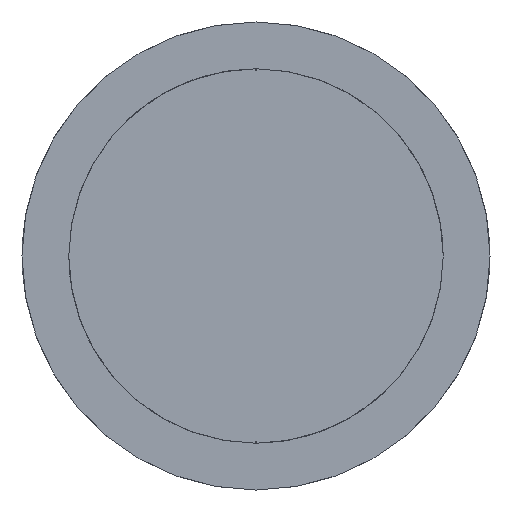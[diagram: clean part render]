
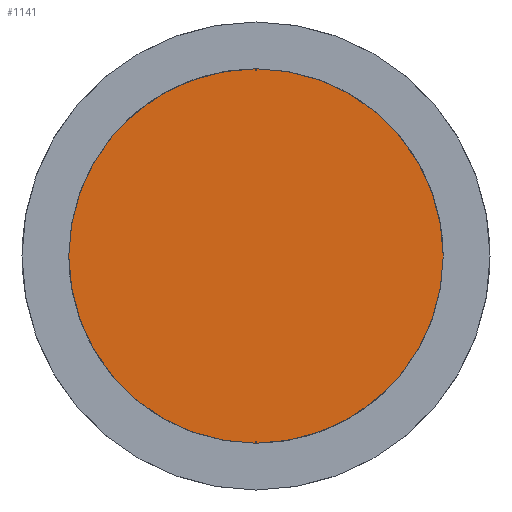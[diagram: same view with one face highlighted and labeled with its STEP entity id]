
A CAD part, left-side view. The second image highlights one B-rep face of the part: STEP entity #1141.
In plain terms, the highlighted planar face has unit normal (-1, 0, 0).
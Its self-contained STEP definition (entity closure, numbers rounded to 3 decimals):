
#1073=CARTESIAN_POINT('Vertex',(0.,0.,4.)) ;
#1080=CARTESIAN_POINT('Vertex',(0.,0.,-4.)) ;
#1083=CARTESIAN_POINT('Axis2P3D Location',(0.,0.,0.)) ;
#1087=CARTESIAN_POINT('Vertex',(0.,4.,0.)) ;
#1090=CARTESIAN_POINT('Axis2P3D Location',(0.,0.,0.)) ;
#1109=CARTESIAN_POINT('Axis2P3D Location',(0.,0.,0.)) ;
#1113=CARTESIAN_POINT('Vertex',(0.,-4.,0.)) ;
#1116=CARTESIAN_POINT('Axis2P3D Location',(0.,0.,0.)) ;
#1130=CARTESIAN_POINT('Axis2P3D Location',(0.,0.,0.)) ;
#1084=DIRECTION('Axis2P3D Direction',(-1.,0.,0.)) ;
#1091=DIRECTION('Axis2P3D Direction',(-1.,0.,0.)) ;
#1110=DIRECTION('Axis2P3D Direction',(-1.,0.,0.)) ;
#1117=DIRECTION('Axis2P3D Direction',(-1.,0.,0.)) ;
#1131=DIRECTION('Axis2P3D Direction',(1.,0.,-0.)) ;
#1132=DIRECTION('Axis2P3D XDirection',(-0.,0.,-1.)) ;
#1085=AXIS2_PLACEMENT_3D('Circle Axis2P3D',#1083,#1084,$) ;
#1092=AXIS2_PLACEMENT_3D('Circle Axis2P3D',#1090,#1091,$) ;
#1111=AXIS2_PLACEMENT_3D('Circle Axis2P3D',#1109,#1110,$) ;
#1118=AXIS2_PLACEMENT_3D('Circle Axis2P3D',#1116,#1117,$) ;
#1133=AXIS2_PLACEMENT_3D('Plane Axis2P3D',#1130,#1131,#1132) ;
#1136=ORIENTED_EDGE('',*,*,#1089,.F.) ;
#1137=ORIENTED_EDGE('',*,*,#1120,.F.) ;
#1138=ORIENTED_EDGE('',*,*,#1115,.F.) ;
#1139=ORIENTED_EDGE('',*,*,#1094,.F.) ;
#1141=ADVANCED_FACE('CF-VPA10',(#1140),#1134,.F.) ;
#1086=CIRCLE('generated circle',#1085,4.) ;
#1093=CIRCLE('generated circle',#1092,4.) ;
#1112=CIRCLE('generated circle',#1111,4.) ;
#1119=CIRCLE('generated circle',#1118,4.) ;
#1089=EDGE_CURVE('',#1081,#1088,#1086,.F.) ;
#1094=EDGE_CURVE('',#1088,#1074,#1093,.F.) ;
#1115=EDGE_CURVE('',#1074,#1114,#1112,.F.) ;
#1120=EDGE_CURVE('',#1114,#1081,#1119,.F.) ;
#1135=EDGE_LOOP('',(#1136,#1137,#1138,#1139)) ;
#1140=FACE_OUTER_BOUND('',#1135,.T.) ;
#1134=PLANE('Plane',#1133) ;
#1074=VERTEX_POINT('',#1073) ;
#1081=VERTEX_POINT('',#1080) ;
#1088=VERTEX_POINT('',#1087) ;
#1114=VERTEX_POINT('',#1113) ;
